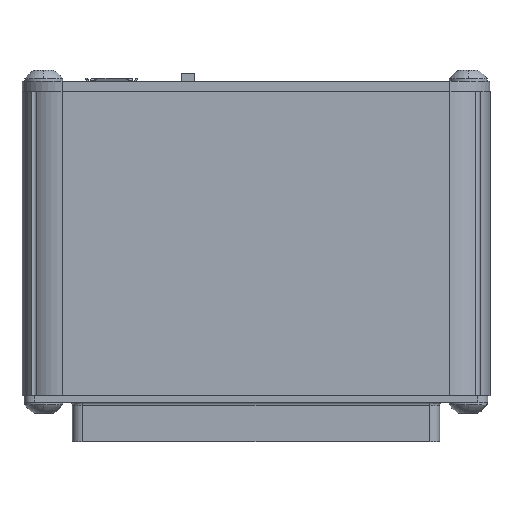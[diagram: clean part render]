
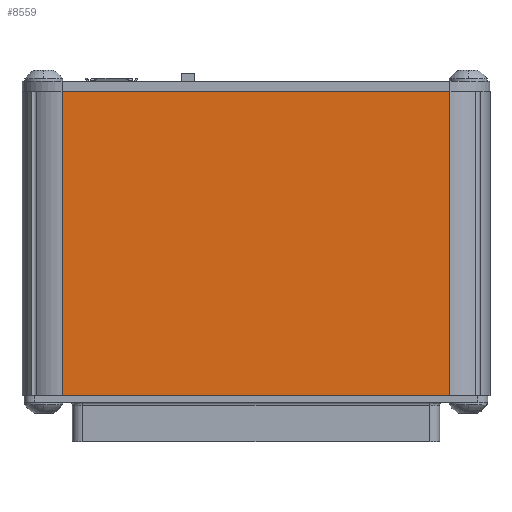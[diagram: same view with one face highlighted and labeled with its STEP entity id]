
A CAD part, front view. The second image highlights one B-rep face of the part: STEP entity #8559.
In plain terms, the highlighted planar face has unit normal (0, -1, 0) as drawn and (0, 1, 0) by its records, which use the part's own axes.
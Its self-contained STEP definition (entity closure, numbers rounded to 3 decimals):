
#6159 = EDGE_CURVE ( 'NONE', #30375, #30395, #34300, .T. ) ;
#6160 = EDGE_CURVE ( 'NONE', #30395, #30381, #34298, .T. ) ;
#8201 = EDGE_CURVE ( 'NONE', #30381, #30373, #12237, .T. ) ;
#8202 = EDGE_CURVE ( 'NONE', #30373, #30375, #12248, .T. ) ;
#8559 = ADVANCED_FACE ( 'NONE', ( #27056 ), #27057, .T. ) ;
#10587 = VECTOR ( 'NONE', #12247, 1000. ) ;
#10589 = VECTOR ( 'NONE', #12251, 1000. ) ;
#12237 = LINE ( 'NONE', #12238, #10587 ) ;
#12238 = CARTESIAN_POINT ( 'NONE',  ( 32.71, 4.373, 40.5 ) ) ;
#12247 = DIRECTION ( 'NONE',  ( 0., 0., 1. ) ) ;
#12248 = LINE ( 'NONE', #12250, #10589 ) ;
#12250 = CARTESIAN_POINT ( 'NONE',  ( -31.29, 4.373, 81. ) ) ;
#12251 = DIRECTION ( 'NONE',  ( -1., 0., 0. ) ) ;
#12886 = VECTOR ( 'NONE', #34302, 1000. ) ;
#12887 = VECTOR ( 'NONE', #34304, 1000. ) ;
#24511 = CARTESIAN_POINT ( 'NONE',  ( 32.71, 4.373, 81. ) ) ;
#24513 = CARTESIAN_POINT ( 'NONE',  ( -25.29, 4.373, 81. ) ) ;
#24519 = CARTESIAN_POINT ( 'NONE',  ( 32.71, 4.373, 35.5 ) ) ;
#24532 = CARTESIAN_POINT ( 'NONE',  ( -25.29, 4.373, 35.5 ) ) ;
#27052 = CARTESIAN_POINT ( 'NONE',  ( -25.29, 4.373, 0. ) ) ;
#27056 = FACE_OUTER_BOUND ( 'NONE', #32733, .T. ) ;
#27057 = PLANE ( 'NONE',  #38455 ) ;
#27060 = DIRECTION ( 'NONE',  ( 0., 1., 0. ) ) ;
#27062 = DIRECTION ( 'NONE',  ( 0., 0., 1. ) ) ;
#29950 = ORIENTED_EDGE ( 'NONE', *, *, #8201, .F. ) ;
#29954 = ORIENTED_EDGE ( 'NONE', *, *, #8202, .F. ) ;
#29958 = ORIENTED_EDGE ( 'NONE', *, *, #6159, .F. ) ;
#29962 = ORIENTED_EDGE ( 'NONE', *, *, #6160, .F. ) ;
#30373 = VERTEX_POINT ( 'NONE', #24511 ) ;
#30375 = VERTEX_POINT ( 'NONE', #24513 ) ;
#30381 = VERTEX_POINT ( 'NONE', #24519 ) ;
#30395 = VERTEX_POINT ( 'NONE', #24532 ) ;
#32733 = EDGE_LOOP ( 'NONE', ( #29962, #29958, #29954, #29950 ) ) ;
#34296 = CARTESIAN_POINT ( 'NONE',  ( -25.29, 4.373, 35.5 ) ) ;
#34298 = LINE ( 'NONE', #34296, #12887 ) ;
#34300 = LINE ( 'NONE', #34301, #12886 ) ;
#34301 = CARTESIAN_POINT ( 'NONE',  ( -25.29, 4.373, 40.5 ) ) ;
#34302 = DIRECTION ( 'NONE',  ( 0., 0., -1. ) ) ;
#34304 = DIRECTION ( 'NONE',  ( 1., 0., 0. ) ) ;
#38455 = AXIS2_PLACEMENT_3D ( 'NONE', #27052, #27060, #27062 ) ;
